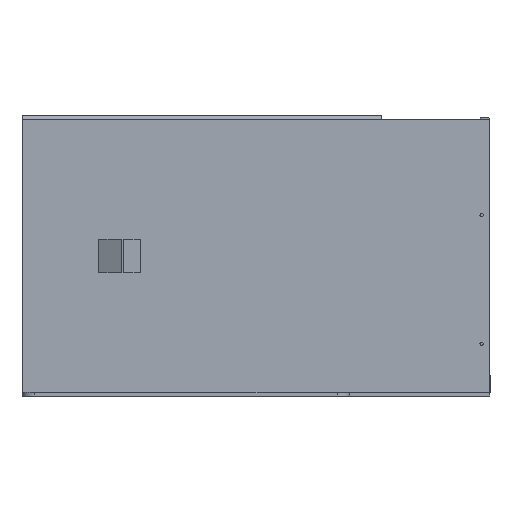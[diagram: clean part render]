
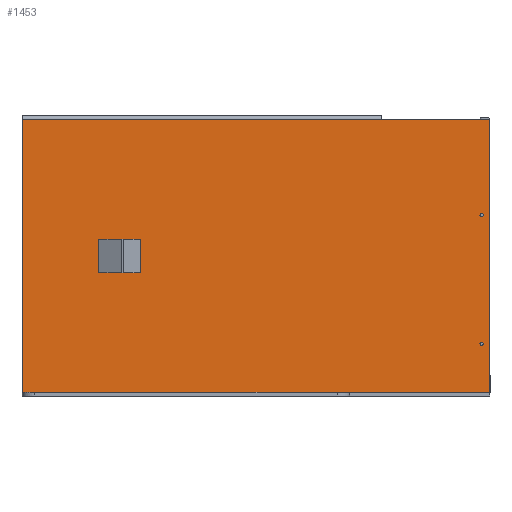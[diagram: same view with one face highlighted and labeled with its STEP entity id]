
A CAD part, left-side view. The second image highlights one B-rep face of the part: STEP entity #1453.
In plain terms, the highlighted planar face has unit normal (-1, 0, 0).
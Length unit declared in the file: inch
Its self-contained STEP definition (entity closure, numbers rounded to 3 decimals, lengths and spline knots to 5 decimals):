
#21 = CARTESIAN_POINT ( 'NONE',  ( -5., 7.625, 0. ) ) ;
#32 = CARTESIAN_POINT ( 'NONE',  ( -5., -7.355, -3.28392 ) ) ;
#304 = DIRECTION ( 'NONE',  ( 0., 0., -1. ) ) ;
#485 = VERTEX_POINT ( 'NONE', #11482 ) ;
#605 = DIRECTION ( 'NONE',  ( 0., 0., -1. ) ) ;
#975 = DIRECTION ( 'NONE',  ( 0., -1., 0. ) ) ;
#1055 = EDGE_LOOP ( 'NONE', ( #6514, #2778, #6489, #17276, #14505 ) ) ;
#1453 = ADVANCED_FACE ( 'NONE', ( #2974, #1534, #7328 ), #4320, .F. ) ;
#1534 = FACE_BOUND ( 'NONE', #8113, .T. ) ;
#1715 = CARTESIAN_POINT ( 'NONE',  ( -5., -7.355, -7.42608 ) ) ;
#1789 = LINE ( 'NONE', #17663, #15101 ) ;
#2670 = EDGE_CURVE ( 'NONE', #8820, #5242, #18113, .T. ) ;
#2778 = ORIENTED_EDGE ( 'NONE', *, *, #6842, .T. ) ;
#2842 = LINE ( 'NONE', #4662, #4299 ) ;
#2879 = DIRECTION ( 'NONE',  ( 0., 0., -1. ) ) ;
#2974 = FACE_BOUND ( 'NONE', #12361, .T. ) ;
#3161 = CARTESIAN_POINT ( 'NONE',  ( -5., 0., 0. ) ) ;
#3213 = CIRCLE ( 'NONE', #16853, 0.055 ) ;
#3651 = LINE ( 'NONE', #11127, #7147 ) ;
#3675 = VECTOR ( 'NONE', #4572, 39.37008 ) ;
#3920 = AXIS2_PLACEMENT_3D ( 'NONE', #10616, #4856, #7581 ) ;
#4122 = VERTEX_POINT ( 'NONE', #16795 ) ;
#4299 = VECTOR ( 'NONE', #17365, 39.37008 ) ;
#4320 = PLANE ( 'NONE',  #18067 ) ;
#4377 = CARTESIAN_POINT ( 'NONE',  ( -5., -7.62618, -0.1 ) ) ;
#4399 = ORIENTED_EDGE ( 'NONE', *, *, #13702, .T. ) ;
#4572 = DIRECTION ( 'NONE',  ( 0., -1., 0. ) ) ;
#4607 = VERTEX_POINT ( 'NONE', #16872 ) ;
#4662 = CARTESIAN_POINT ( 'NONE',  ( -5., -7.62618, -0.1 ) ) ;
#4856 = DIRECTION ( 'NONE',  ( 1., 0., 0. ) ) ;
#5242 = VERTEX_POINT ( 'NONE', #32 ) ;
#5981 = LINE ( 'NONE', #4377, #3675 ) ;
#6041 = CIRCLE ( 'NONE', #3920, 0.055 ) ;
#6406 = CARTESIAN_POINT ( 'NONE',  ( -5., -7.355, -7.42608 ) ) ;
#6489 = ORIENTED_EDGE ( 'NONE', *, *, #10059, .T. ) ;
#6514 = ORIENTED_EDGE ( 'NONE', *, *, #7490, .F. ) ;
#6842 = EDGE_CURVE ( 'NONE', #4122, #7676, #15951, .T. ) ;
#7147 = VECTOR ( 'NONE', #975, 39.37008 ) ;
#7328 = FACE_OUTER_BOUND ( 'NONE', #1055, .T. ) ;
#7468 = CIRCLE ( 'NONE', #9267, 0.055 ) ;
#7490 = EDGE_CURVE ( 'NONE', #4122, #485, #2842, .T. ) ;
#7523 = EDGE_CURVE ( 'NONE', #485, #9521, #5981, .T. ) ;
#7581 = DIRECTION ( 'NONE',  ( 0., 0., -1. ) ) ;
#7676 = VERTEX_POINT ( 'NONE', #16487 ) ;
#7770 = AXIS2_PLACEMENT_3D ( 'NONE', #11888, #17783, #17596 ) ;
#8113 = EDGE_LOOP ( 'NONE', ( #4399, #13879 ) ) ;
#8473 = DIRECTION ( 'NONE',  ( 0., 0., -1. ) ) ;
#8820 = VERTEX_POINT ( 'NONE', #13778 ) ;
#8920 = DIRECTION ( 'NONE',  ( 1., 0., 0. ) ) ;
#9267 = AXIS2_PLACEMENT_3D ( 'NONE', #6406, #17994, #605 ) ;
#9521 = VERTEX_POINT ( 'NONE', #11055 ) ;
#9654 = CARTESIAN_POINT ( 'NONE',  ( -5., -7.355, -7.48108 ) ) ;
#10059 = EDGE_CURVE ( 'NONE', #7676, #4607, #3651, .T. ) ;
#10394 = EDGE_CURVE ( 'NONE', #13828, #16116, #3213, .T. ) ;
#10520 = CARTESIAN_POINT ( 'NONE',  ( -5., -7.355, -7.37108 ) ) ;
#10616 = CARTESIAN_POINT ( 'NONE',  ( -5., -7.355, -3.22892 ) ) ;
#10634 = DIRECTION ( 'NONE',  ( 1., 0., 0. ) ) ;
#11055 = CARTESIAN_POINT ( 'NONE',  ( -5., -7.62618, -0.1 ) ) ;
#11114 = ORIENTED_EDGE ( 'NONE', *, *, #11117, .T. ) ;
#11117 = EDGE_CURVE ( 'NONE', #16116, #13828, #7468, .T. ) ;
#11127 = CARTESIAN_POINT ( 'NONE',  ( -5., 0., -9. ) ) ;
#11192 = VECTOR ( 'NONE', #8473, 39.37008 ) ;
#11482 = CARTESIAN_POINT ( 'NONE',  ( -5., -4.09721, -0.1 ) ) ;
#11888 = CARTESIAN_POINT ( 'NONE',  ( -5., -7.355, -3.22892 ) ) ;
#12303 = EDGE_CURVE ( 'NONE', #4607, #9521, #1789, .T. ) ;
#12361 = EDGE_LOOP ( 'NONE', ( #13220, #11114 ) ) ;
#13220 = ORIENTED_EDGE ( 'NONE', *, *, #10394, .T. ) ;
#13702 = EDGE_CURVE ( 'NONE', #5242, #8820, #6041, .T. ) ;
#13778 = CARTESIAN_POINT ( 'NONE',  ( -5., -7.355, -3.17392 ) ) ;
#13828 = VERTEX_POINT ( 'NONE', #9654 ) ;
#13879 = ORIENTED_EDGE ( 'NONE', *, *, #2670, .T. ) ;
#14505 = ORIENTED_EDGE ( 'NONE', *, *, #7523, .F. ) ;
#15101 = VECTOR ( 'NONE', #16310, 39.37008 ) ;
#15951 = LINE ( 'NONE', #21, #11192 ) ;
#16116 = VERTEX_POINT ( 'NONE', #10520 ) ;
#16310 = DIRECTION ( 'NONE',  ( 0., 0., 1. ) ) ;
#16487 = CARTESIAN_POINT ( 'NONE',  ( -5., 7.625, -9. ) ) ;
#16795 = CARTESIAN_POINT ( 'NONE',  ( -5., 7.625, -0.1 ) ) ;
#16853 = AXIS2_PLACEMENT_3D ( 'NONE', #1715, #10634, #304 ) ;
#16872 = CARTESIAN_POINT ( 'NONE',  ( -5., -7.62618, -9. ) ) ;
#17276 = ORIENTED_EDGE ( 'NONE', *, *, #12303, .T. ) ;
#17365 = DIRECTION ( 'NONE',  ( 0., -1., 0. ) ) ;
#17596 = DIRECTION ( 'NONE',  ( 0., 0., -1. ) ) ;
#17663 = CARTESIAN_POINT ( 'NONE',  ( -5., -7.62618, 0. ) ) ;
#17783 = DIRECTION ( 'NONE',  ( 1., 0., 0. ) ) ;
#17994 = DIRECTION ( 'NONE',  ( 1., 0., 0. ) ) ;
#18067 = AXIS2_PLACEMENT_3D ( 'NONE', #3161, #8920, #2879 ) ;
#18113 = CIRCLE ( 'NONE', #7770, 0.055 ) ;
